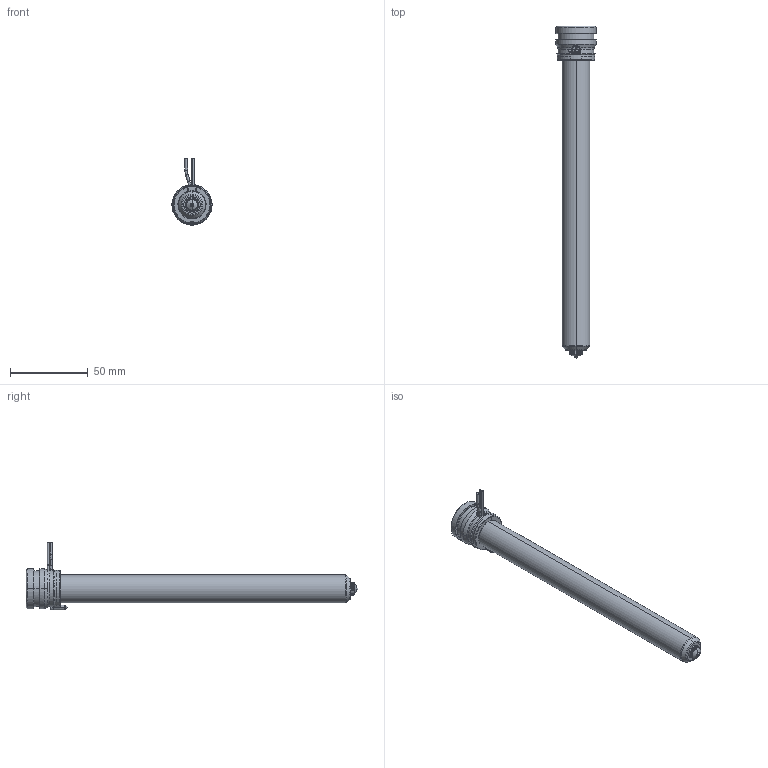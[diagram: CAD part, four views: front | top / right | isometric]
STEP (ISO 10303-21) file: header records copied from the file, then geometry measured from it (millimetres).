
FILE_DESCRIPTION((''),'2;1');
FILE_NAME('MPN-08-24-TS8-196-A','2026-02-05T11:53:48',('UPTIO'),('Thermoplay S.p.A.'),'CREO PARAMETRIC BY PTC INC, 2023494','CREO PARAMETRIC BY PTC INC, 2023494','');
FILE_SCHEMA(('CONFIG_CONTROL_DESIGN','SHAPE_APPEARANCE_LAYERS_GROUPS'));
Length unit declared in the file: millimetre
Products named in the file (1): MPN-08-24-TS8-196-A
Bounding box: 26 x 214 x 43.5 mm (x, y, z)
Volume: 39721.9 mm3; surface area: 52264.9 mm2
Topology: 2 solids, 5 shells, 548 faces, 1437 edges, 892 vertices
Faces by surface type: cylinder 178, plane 146, bspline 82, torus 64, cone 60, sphere 12, extrusion 6
Entity records: 29740 total; most frequent: CARTESIAN_POINT 13567, ORIENTED_EDGE 2854, DIRECTION 2539, EDGE_CURVE 1427, AXIS2_PLACEMENT_3D 992, VERTEX_POINT 892, EDGE_LOOP 575, VECTOR 555
